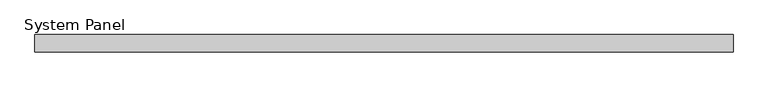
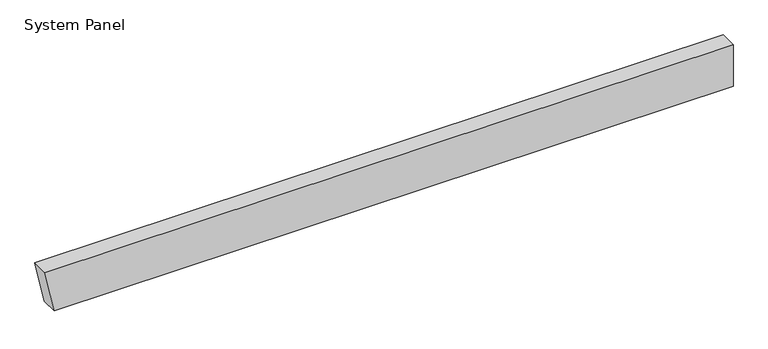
"""IFC4 building model written with IfcOpenShell, lengths in millimetres: plate geometry, System Panel : MetecnoPanel 150mm Horizontal - Plain Astro - PIR."""

from ifc_helpers import new_model, si_unit, frame, origin, place, context, project, spatial, polyline, outline, extrude, source, transform, mapped, element, save


def system_panel_86827932(model_context):
    return source(origin(), model_context, "Body", "SweptSolid", [
        extrude(outline(polyline([(0.0, -2907.3970701), (0.0, 2990.0), (379.9704237, 2990.0), (379.9704237, -2990.0), (0.0, -2907.3970701)])), frame((0.0, -150.0, 0.0), z_axis=(0.0, 1.0, 0.0), x_axis=(0.0, 0.0, 1.0)), (0.0, 0.0, 1.0), 150.0),
    ])


if __name__ == "__main__":
    model = new_model("IFC4")
    model_context = context("Model", 3, world=origin())
    ifc_project = project(units=[si_unit("LENGTHUNIT", "METRE", prefix="MILLI")], contexts=[model_context])
    site = spatial("IfcSite", under=ifc_project)
    building = spatial("IfcBuilding", under=site)
    placement = place(None, origin())
    system_panel_shape = system_panel_86827932(model_context)
    element("IfcPlate", 1, ObjectType="System Panel : MetecnoPanel 150mm Horizontal - Plain Astro - PIR", at=placement, inside=building, context=model_context, shape_type="MappedRepresentation", body=[
        mapped(system_panel_shape, transform((0.0, 0.0, 0.0), x_axis=(1.0, 0.0, 0.0), y_axis=(0.0, 1.0, 0.0), z_axis=(0.0, 0.0, 1.0))),
    ])
    save(model, "model.ifc")
